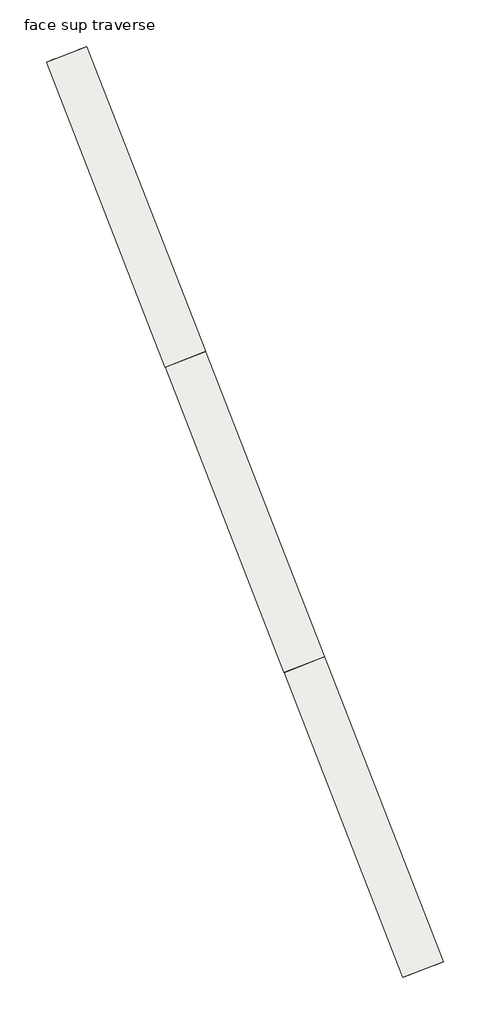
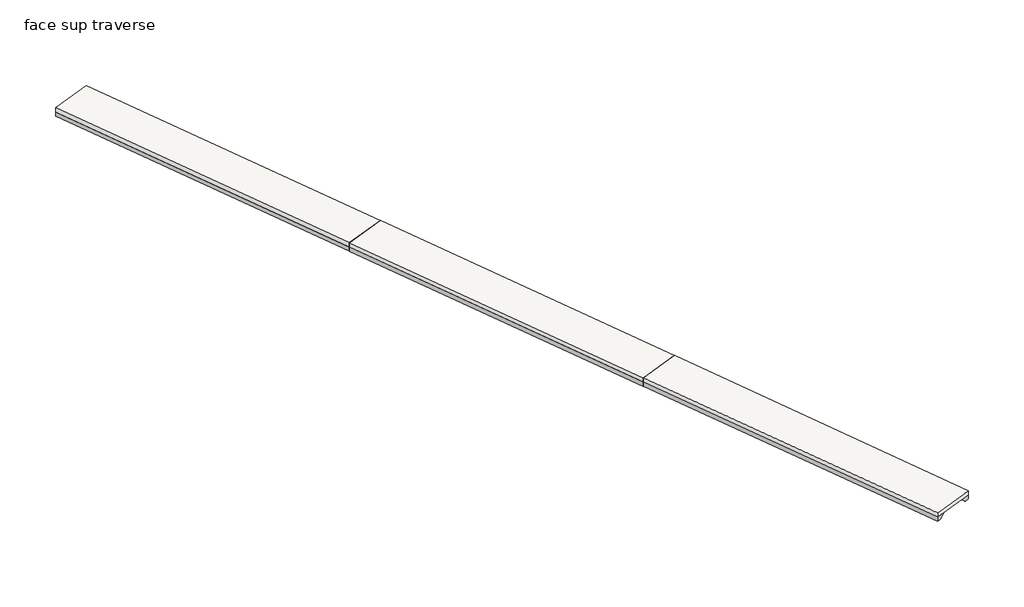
# One storey: 6 proxies, 3 slabs.
"""IFC4 building model written with IfcOpenShell, lengths in millimetres."""

from ifc_helpers import new_model, si_unit, frame, origin, place, context, project, spatial, polyline, outline, extrude, transform, mapped, element, save
from components import generic_models_39ab5bcd, generic_models_48085c64

model = new_model("IFC4")

# Units and contexts
model_context = context("Model", 3, world=origin())
ifc_project = project(units=[si_unit("LENGTHUNIT", "METRE", prefix="MILLI")], contexts=[model_context])

# Site, building, storey
site = spatial("IfcSite", under=ifc_project)
building = spatial("IfcBuilding", under=site)
storey = spatial("IfcBuildingStorey", under=building, Name="face sup traverse", Elevation=3350.0)

# Proxies
placement = place(None, origin())
generic_models_shape = generic_models_39ab5bcd(model_context)
element("IfcBuildingElementProxy", 1, Name="Gousset traverse bord droit : Gousset traverse bord droit", ObjectType="Gousset traverse bord droit : Gousset traverse bord droit", at=placement, inside=storey, context=model_context, shape_type="MappedRepresentation", body=[
    mapped(generic_models_shape, transform((22537.7386278, -22896.7774592, 3350.0), x_axis=(0.363288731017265, -0.9316766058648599, 0.0), y_axis=(0.9316766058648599, 0.363288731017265, 0.0), z_axis=(0.0, 0.0, 1.0))),
])
element("IfcBuildingElementProxy", 2, Name="Gousset traverse bord droit : Gousset traverse bord droit", ObjectType="Gousset traverse bord droit : Gousset traverse bord droit", at=placement, inside=storey, context=model_context, shape_type="MappedRepresentation", body=[
    mapped(generic_models_shape, transform((31809.7166896, -46672.8331252, 3350.0), x_axis=(0.363288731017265, -0.9316766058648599, 0.0), y_axis=(0.9316766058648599, 0.363288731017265, 0.0), z_axis=(0.0, 0.0, 1.0))),
])
element("IfcBuildingElementProxy", 3, Name="Gousset traverse bord droit : Gousset traverse bord droit", ObjectType="Gousset traverse bord droit : Gousset traverse bord droit", at=placement, inside=storey, context=model_context, shape_type="MappedRepresentation", body=[
    mapped(generic_models_shape, transform((41081.6947513, -70448.8887913, 3350.0), x_axis=(0.363288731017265, -0.9316766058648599, 0.0), y_axis=(0.9316766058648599, 0.363288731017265, 0.0), z_axis=(0.0, 0.0, 1.0))),
])
generic_models_2_shape = generic_models_48085c64(model_context)
element("IfcBuildingElementProxy", 4, Name="Gousset traverse bord droit : Gousset traverse bord droit", ObjectType="Gousset traverse bord droit : Gousset traverse bord droit", at=placement, inside=storey, context=model_context, shape_type="MappedRepresentation", body=[
    mapped(generic_models_2_shape, transform((19414.9670882, -24114.5685686, 3350.0), x_axis=(0.3633553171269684, -0.9316506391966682, 0.0), y_axis=(0.9316506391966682, 0.3633553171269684, 0.0), z_axis=(0.0, 0.0, 1.0))),
])
element("IfcBuildingElementProxy", 5, Name="Gousset traverse bord droit : Gousset traverse bord droit", ObjectType="Gousset traverse bord droit : Gousset traverse bord droit", at=placement, inside=storey, context=model_context, shape_type="MappedRepresentation", body=[
    mapped(generic_models_2_shape, transform((28686.9451499, -47890.6242347, 3350.0), x_axis=(0.3633553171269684, -0.9316506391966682, 0.0), y_axis=(0.9316506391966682, 0.3633553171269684, 0.0), z_axis=(0.0, 0.0, 1.0))),
])
element("IfcBuildingElementProxy", 6, Name="Gousset traverse bord droit : Gousset traverse bord droit", ObjectType="Gousset traverse bord droit : Gousset traverse bord droit", at=placement, inside=storey, context=model_context, shape_type="MappedRepresentation", body=[
    mapped(generic_models_2_shape, transform((37958.9232117, -71666.6799007, 3350.0), x_axis=(0.3633553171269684, -0.9316506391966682, 0.0), y_axis=(0.9316506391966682, 0.3633553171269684, 0.0), z_axis=(0.0, 0.0, 1.0))),
])

# Slabs
element("IfcSlab", 7, ObjectType="Dalle en béton - 350 mm", at=placement, inside=storey, context=model_context, shape_type="SweptSolid", body=[
    extrude(outline(polyline([(22537.7386278, -22896.7774592), (31802.4502481, -46654.1998502), (28679.6787084, -47871.9909596), (19414.9670882, -24114.5685686), (22537.7386278, -22896.7774592)])), frame((0.0, 0.0, 3000.0), z_axis=(0.0, 0.0, 1.0), x_axis=(1.0, 0.0, 0.0)), (0.0, 0.0, 1.0), 350.0),
])
element("IfcSlab", 8, ObjectType="Dalle en béton - 350 mm", at=placement, inside=storey, context=model_context, shape_type="SweptSolid", body=[
    extrude(outline(polyline([(31809.7166896, -46672.8331252), (41074.4283098, -70430.2555162), (37951.6567702, -71648.0466256), (28686.9451499, -47890.6242347), (31809.7166896, -46672.8331252)])), frame((0.0, 0.0, 3000.0), z_axis=(0.0, 0.0, 1.0), x_axis=(1.0, 0.0, 0.0)), (0.0, 0.0, 1.0), 350.0),
])
element("IfcSlab", 9, ObjectType="Dalle en béton - 350 mm", at=placement, inside=storey, context=model_context, shape_type="SweptSolid", body=[
    extrude(outline(polyline([(41081.6947513, -70448.8887913), (50346.4063716, -94206.3111822), (47223.6348319, -95424.1022917), (37958.9232117, -71666.6799007), (41081.6947513, -70448.8887913)])), frame((0.0, 0.0, 3000.0), z_axis=(0.0, 0.0, 1.0), x_axis=(1.0, 0.0, 0.0)), (0.0, 0.0, 1.0), 350.0),
])

save(model, "model.ifc")
